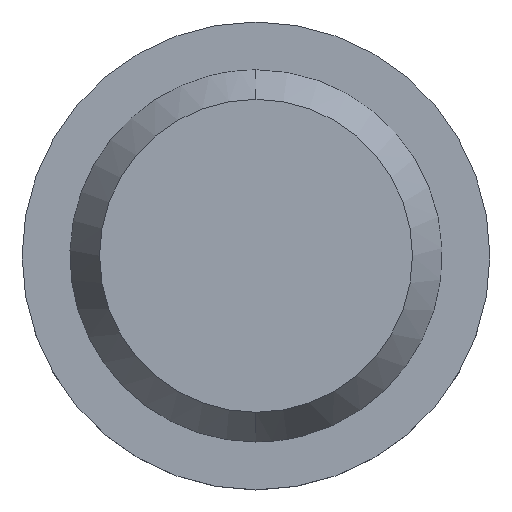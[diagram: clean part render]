
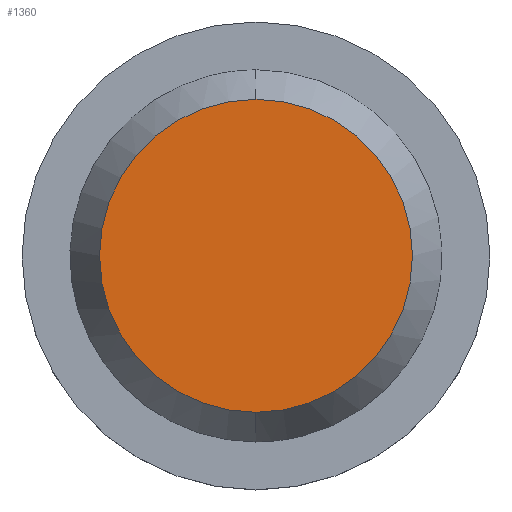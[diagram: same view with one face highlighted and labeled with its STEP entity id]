
A CAD part, top view. The second image highlights one B-rep face of the part: STEP entity #1360.
In plain terms, the highlighted planar face has unit normal (0, 0, 1).
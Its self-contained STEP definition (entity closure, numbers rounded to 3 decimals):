
#1160=CARTESIAN_POINT('',(0.,-61.427,34.));
#1170=DIRECTION('',(-0.,0.,1.));
#1180=DIRECTION('',(0.,-1.,0.));
#1190=AXIS2_PLACEMENT_3D('',#1160,#1170,#1180);
#1200=PLANE('',#1190);
#1210=CARTESIAN_POINT('',(0.,0.,34.))
;
#1220=DIRECTION('',(0.,0.,-1.));
#1230=DIRECTION('',(0.,-1.,0.));
#1240=AXIS2_PLACEMENT_3D('',#1210,#1220,#1230);
#1250=CIRCLE('',#1240,110.355);
#1260=CARTESIAN_POINT('',(0.,-110.355,34.));
#1270=VERTEX_POINT('',#1260);
#1280=CARTESIAN_POINT('',(0.,110.355,34.));
#1290=VERTEX_POINT('',#1280);
#1300=EDGE_CURVE('',#1270,#1290,#1250,.T.);
#1310=ORIENTED_EDGE('',*,*,#1300,.F.);
#1320=EDGE_CURVE('',#1290,#1270,#1250,.T.);
#1330=ORIENTED_EDGE('',*,*,#1320,.F.);
#1340=EDGE_LOOP('',(#1330,#1310));
#1350=FACE_OUTER_BOUND('',#1340,.T.);
#1360=ADVANCED_FACE('',(#1350),#1200,.T.);
